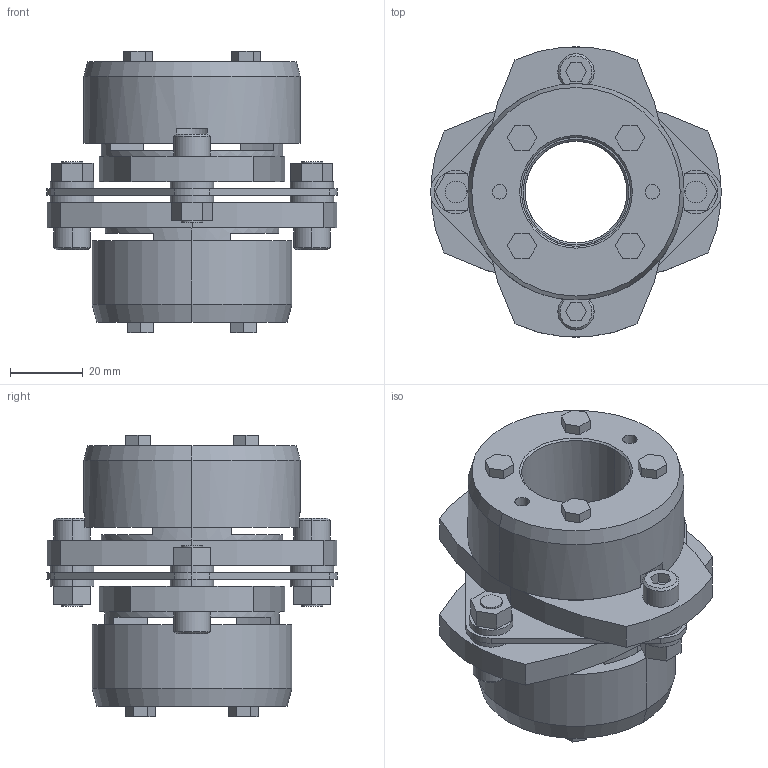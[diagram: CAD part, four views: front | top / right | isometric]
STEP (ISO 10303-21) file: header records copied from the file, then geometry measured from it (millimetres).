
FILE_DESCRIPTION((''),'2;1');
FILE_NAME('LCS-80T7-28×30.stp','2011-09-12T16:45:21',(''),(''),'AutoCAD STEP 2000i','AutoCAD 2000i',', , ');
FILE_SCHEMA(('CONFIG_CONTROL_DESIGN'));
Length unit declared in the file: millimetre
Products named in the file (11): LCS-80T7-28×30; 忣兜1; LC80T7-T030; LC80T7-T028-1; LC80T7-T028; LC80T7-T024; LC80T7-T022; LC80T7-T019; LC80T7-T017-1; LC80T7-T017; LCS80-ITA
Assembly tree (10 placements, depth 2):
  LCS-80T7-28×30
    忣兜1
    LC80T7-T030
    LC80T7-T028-1
    LC80T7-T028
    LC80T7-T024
    LC80T7-T022
    LC80T7-T019
    LC80T7-T017-1
    LC80T7-T017
    LCS80-ITA
Bounding box: 80 x 79.95 x 77.35 mm (x, y, z)
Volume: 139942.6 mm3; surface area: 42594.3 mm2
Topology: 1 solids, 1 shells, 250 faces, 616 edges, 404 vertices
Faces by surface type: plane 148, cylinder 82, cone 20
Entity records: 7675 total; most frequent: DIRECTION 1342, CARTESIAN_POINT 1281, ORIENTED_EDGE 1232, EDGE_CURVE 616, AXIS2_PLACEMENT_3D 465, VECTOR 412, LINE 412, VERTEX_POINT 404
